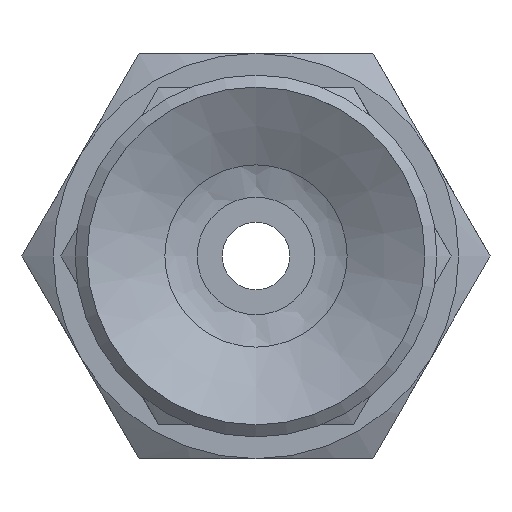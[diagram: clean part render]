
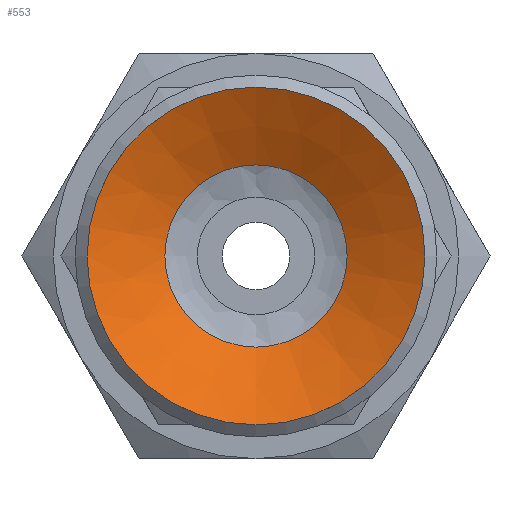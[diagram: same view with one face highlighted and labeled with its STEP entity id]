
A CAD part, front view. The second image highlights one B-rep face of the part: STEP entity #553.
In plain terms, the highlighted conical face has half-angle 61.39 degrees and reference radius 2.25 mm.
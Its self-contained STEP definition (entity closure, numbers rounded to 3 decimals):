
#553=ADVANCED_FACE('',(#817,#818),#819,.F.);
#817=FACE_BOUND('',#1114,.T.);
#818=FACE_OUTER_BOUND('',#1115,.T.);
#819=CONICAL_SURFACE('',#1116,2.25,1.071);
#1114=EDGE_LOOP('',(#1846));
#1115=EDGE_LOOP('',(#1847));
#1116=AXIS2_PLACEMENT_3D('',#1848,#1849,#1850);
#1846=ORIENTED_EDGE('',*,*,#2141,.T.);
#1847=ORIENTED_EDGE('',*,*,#2136,.T.);
#1848=CARTESIAN_POINT('',(0.0,1.5,0.0));
#1849=DIRECTION('',(-0.0,-1.0,0.));
#1850=DIRECTION('',(0.0,0.,-1.0));
#2136=EDGE_CURVE('',#2461,#2461,#2462,.T.);
#2141=EDGE_CURVE('',#2471,#2471,#2472,.T.);
#2461=VERTEX_POINT('',#3161);
#2462=CIRCLE('',#3162,5.);
#2471=VERTEX_POINT('',#3171);
#2472=CIRCLE('',#3172,2.698);
#3161=CARTESIAN_POINT('',(0.0,0.,-5.));
#3162=AXIS2_PLACEMENT_3D('',#3496,#3497,#3498);
#3171=CARTESIAN_POINT('',(0.0,1.256,-2.698));
#3172=AXIS2_PLACEMENT_3D('',#3511,#3512,#3513);
#3496=CARTESIAN_POINT('',(0.0,0.0,0.0));
#3497=DIRECTION('',(0.0,-1.0,0.));
#3498=DIRECTION('',(0.0,0.,-1.0));
#3511=CARTESIAN_POINT('',(0.0,1.256,0.0));
#3512=DIRECTION('',(0.0,1.0,0.));
#3513=DIRECTION('',(0.0,0.,-1.0));
